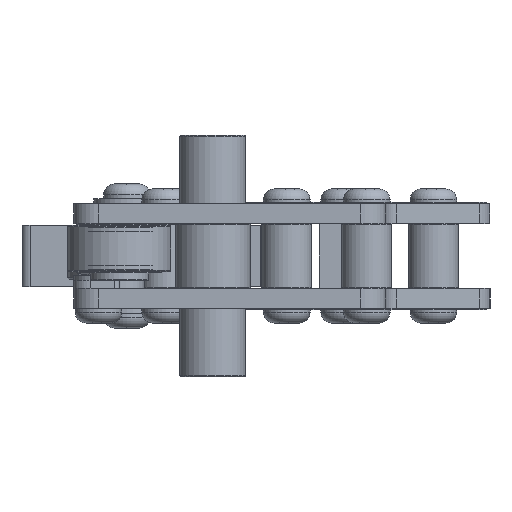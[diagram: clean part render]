
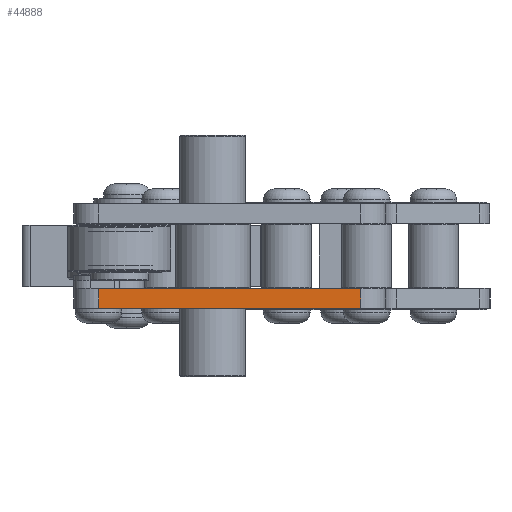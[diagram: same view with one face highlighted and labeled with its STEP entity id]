
A CAD part, left-side view. The second image highlights one B-rep face of the part: STEP entity #44888.
In plain terms, the highlighted planar face has unit normal (-1, 0, 0).
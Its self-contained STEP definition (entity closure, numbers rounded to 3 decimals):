
#4341=PLANE('',#47478);
#5830=LINE('',#58943,#10340);
#5971=LINE('',#59480,#10481);
#5972=LINE('',#59483,#10482);
#5973=LINE('',#59484,#10483);
#10340=VECTOR('',#49685,157.5);
#10481=VECTOR('',#50230,12.);
#10482=VECTOR('',#50233,12.);
#10483=VECTOR('',#50234,157.5);
#15431=FACE_OUTER_BOUND('',#17924,.T.);
#17924=EDGE_LOOP('',(#32285,#32286,#32287,#32288));
#21223=VERTEX_POINT('',#58940);
#21224=VERTEX_POINT('',#58942);
#21418=VERTEX_POINT('',#59478);
#21419=VERTEX_POINT('',#59482);
#25527=EDGE_CURVE('',#21224,#21223,#5830,.T.);
#25785=EDGE_CURVE('',#21224,#21418,#5971,.T.);
#25786=EDGE_CURVE('',#21419,#21223,#5972,.T.);
#25787=EDGE_CURVE('',#21418,#21419,#5973,.T.);
#32285=ORIENTED_EDGE('',*,*,#25785,.F.);
#32286=ORIENTED_EDGE('',*,*,#25527,.T.);
#32287=ORIENTED_EDGE('',*,*,#25786,.F.);
#32288=ORIENTED_EDGE('',*,*,#25787,.F.);
#44888=ADVANCED_FACE('',(#15431),#4341,.T.);
#47478=AXIS2_PLACEMENT_3D('',#59481,#50231,#50232);
#49685=DIRECTION('',(0.,-1.,0.));
#50230=DIRECTION('',(0.,0.,1.));
#50231=DIRECTION('center_axis',(-1.,0.,0.));
#50232=DIRECTION('ref_axis',(0.,-1.,0.));
#50233=DIRECTION('',(0.,0.,-1.));
#50234=DIRECTION('',(0.,-1.,0.));
#58940=CARTESIAN_POINT('',(0.,15.,0.));
#58942=CARTESIAN_POINT('',(0.,172.5,0.));
#58943=CARTESIAN_POINT('',(0.,187.5,0.));
#59478=CARTESIAN_POINT('',(0.,172.5,12.));
#59480=CARTESIAN_POINT('',(0.,172.5,0.));
#59481=CARTESIAN_POINT('Origin',(0.,187.5,0.));
#59482=CARTESIAN_POINT('',(0.,15.,12.));
#59483=CARTESIAN_POINT('',(0.,15.,0.));
#59484=CARTESIAN_POINT('',(0.,187.5,12.));
